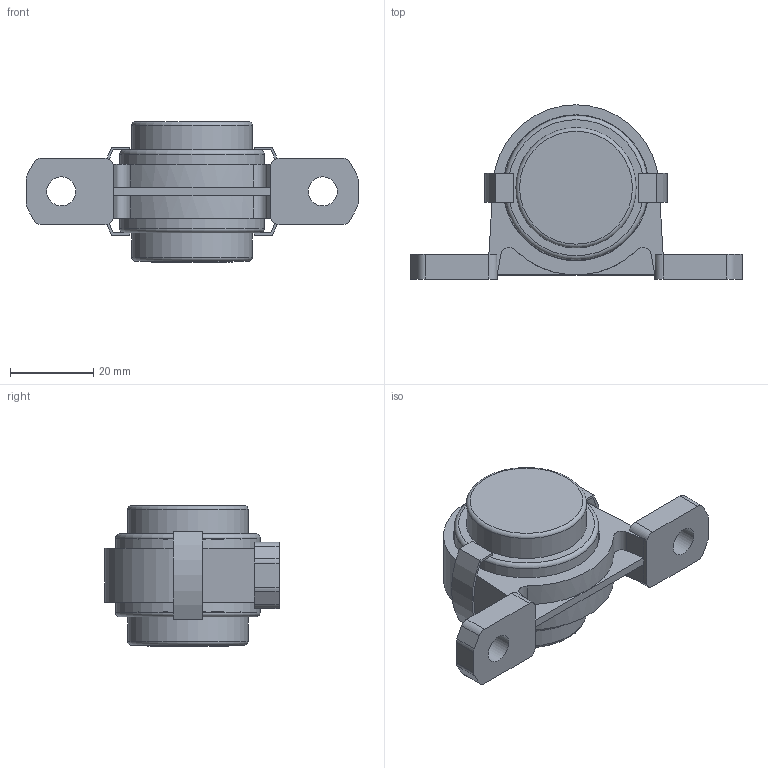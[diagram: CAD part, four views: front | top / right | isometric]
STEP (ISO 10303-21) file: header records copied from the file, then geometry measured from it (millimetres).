
FILE_DESCRIPTION((''),'2;1');
FILE_NAME('\\Ts-tgl068\j-cad-d-base\00.3DCADデータ作成フォルダ\11.エコシリーズ\MUSP000\MUSP002E.stp','2014-11-12T09:23:03',('btec_1106_2'),(''),'Autodesk Inventor 2012','Autodesk Inventor 2012','');
FILE_SCHEMA(('AUTOMOTIVE_DESIGN { 1 0 10303 214 1 1 1 1 }'));
Length unit declared in the file: millimetre
Products named in the file (6): MUSP000C; SP002; U002; 002CPE; 2CLP; 002CP15
Assembly tree (6 placements, depth 2):
  MUSP000C
    SP002
    U002
    002CPE
    2CLP  x2
    002CP15
Bounding box: 80 x 42 x 33.9 mm (x, y, z)
Volume: 19491 mm3; surface area: 19452.8 mm2
Topology: 6 solids, 6 shells, 130 faces, 301 edges, 196 vertices
Faces by surface type: plane 72, cylinder 45, torus 8, cone 3, sphere 2
Full cylindrical faces by diameter (mm): 3.5 x1, 4 x1, 7 x2, 15 x2, 19.4 x2, 20.1 x1, 22 x1, 28.4 x2, 29 x2, 34.2 x2, 34.8 x2, 35.2 x2
Entity records: 3490 total; most frequent: CARTESIAN_POINT 672, DIRECTION 594, ORIENTED_EDGE 468, AXIS2_PLACEMENT_3D 234, EDGE_CURVE 234, EDGE_LOOP 180, VERTEX_POINT 172, VECTOR 126
